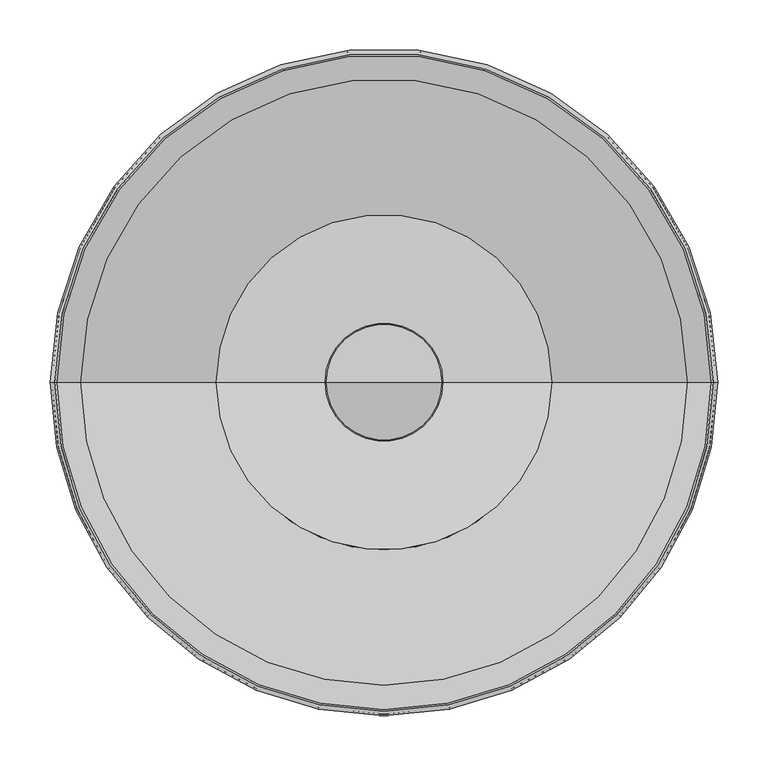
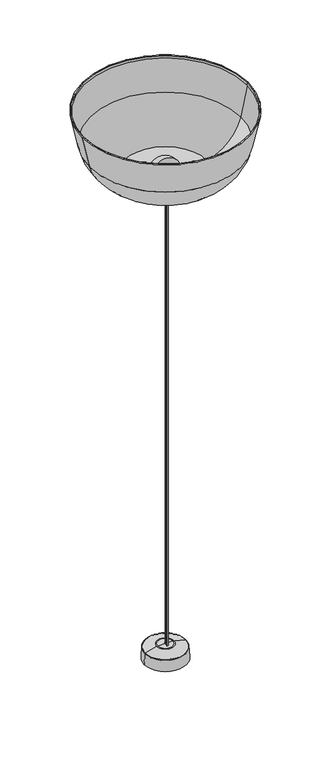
"""IFC4 building model written with IfcOpenShell, lengths in millimetres: light fixture geometry, RBW-Dram-Pendant : DR-L-PC."""

import ifcopenshell
import ifcopenshell.guid

model = None  # the IFC model being written
_history = None  # IfcOwnerHistory: only IFC2X3 demands one
_inside = {}  # id of a spatial element -> (the spatial element, [elements in it])
_under = {}  # id of a project, library or spatial element -> (it, [spatial elements below it])
_declared = {}  # id of a project -> (the project, [libraries it declares])
_typed = {}  # id of a type object -> (the type object, [elements of that type])
_made_of = {}  # id of a material, layer set ... -> (it, [elements and type objects made of it])


def new_model(schema):
    """Start an empty IFC model of exactly this schema.

    Asked for "IFC4X3", IfcOpenShell would pick the latest addendum, in which some entities
    have other attributes; the version numbers below select the first issue.
    IFC2X3 requires an IfcOwnerHistory on every rooted entity: one is made here for all.
    """
    global model, _history
    if schema == "IFC4X3":
        model = ifcopenshell.file(schema_version=(4, 3, 0, 0))
    else:
        model = ifcopenshell.file(schema=schema)
    _inside.clear()
    _under.clear()
    _declared.clear()
    _typed.clear()
    _made_of.clear()
    _history = None
    if model.schema == "IFC2X3":
        org = make("IfcOrganization", Name="unknown")
        user = make(
            "IfcPersonAndOrganization",
            ThePerson=make("IfcPerson", FamilyName="unknown"),
            TheOrganization=org,
        )
        app = make(
            "IfcApplication",
            ApplicationDeveloper=org,
            Version="unknown",
            ApplicationFullName="unknown",
            ApplicationIdentifier="unknown",
        )
        _history = make(
            "IfcOwnerHistory",
            OwningUser=user,
            OwningApplication=app,
            ChangeAction="ADDED",
            CreationDate=0,
        )
    return model


def make(cls, **values):
    """One entity of the class cls with the attributes given. An attribute that is None is left unset."""
    return model.create_entity(
        cls, **{name: value for name, value in values.items() if value is not None}
    )


def rooted(cls, **values):
    """An entity with a GlobalId (a new one), such as an element, a storey or a relation."""
    return make(cls, GlobalId=ifcopenshell.guid.new(), OwnerHistory=_history, **values)


def si_unit(unit_type, name, prefix=None):
    """IfcSIUnit, for example si_unit("LENGTHUNIT", "METRE", prefix="MILLI")."""
    return make("IfcSIUnit", UnitType=unit_type, Prefix=prefix, Name=name)


def assignment(units):
    """IfcUnitAssignment: the units of a project."""
    return None if units is None else make("IfcUnitAssignment", Units=units)


def point(xyz):
    """IfcCartesianPoint."""
    return None if xyz is None else make("IfcCartesianPoint", Coordinates=xyz)


def direction(xyz):
    """IfcDirection."""
    return None if xyz is None else make("IfcDirection", DirectionRatios=xyz)


def frame(location, z_axis=None, x_axis=None):
    """IfcAxis2Placement3D, a coordinate frame: its origin and axes. An axis left out is left unset."""
    return make(
        "IfcAxis2Placement3D",
        Location=point(location),
        Axis=direction(z_axis),
        RefDirection=direction(x_axis),
    )


def frame_2d(location, x_axis=None):
    """IfcAxis2Placement2D, a coordinate frame in the plane: its origin and x axis."""
    return make(
        "IfcAxis2Placement2D", Location=point(location), RefDirection=direction(x_axis)
    )


def origin():
    """The frame at (0, 0, 0) with its axes left unset."""
    return frame((0.0, 0.0, 0.0))


def place(relative_to, where):
    """IfcLocalPlacement: puts the frame where relative to a parent placement (None: the world)."""
    return make(
        "IfcLocalPlacement", PlacementRelTo=relative_to, RelativePlacement=where
    )


def context(
    kind, dimensions, precision=None, world=None, true_north=None, identifier=None
):
    """IfcGeometricRepresentationContext, for example the 3D "Model" context."""
    return make(
        "IfcGeometricRepresentationContext",
        ContextIdentifier=identifier,
        ContextType=kind,
        CoordinateSpaceDimension=dimensions,
        Precision=precision,
        WorldCoordinateSystem=world,
        TrueNorth=true_north,
    )


def project(units=None, contexts=None):
    """IfcProject with its units and contexts."""
    return rooted(
        "IfcProject",
        Name="project",
        RepresentationContexts=contexts,
        UnitsInContext=assignment(units),
    )


def spatial(cls, under=None, at=None, **own):
    """A site, building, storey or space (cls), placed at a placement, below another one or the project."""
    s = rooted(cls, ObjectPlacement=at, **own)
    if under is not None:
        _under.setdefault(under.id(), (under, []))[1].append(s)
    return s


def polyline(points):
    """IfcPolyline through the points."""
    return make("IfcPolyline", Points=[point(p) for p in points])


def circle_curve(where, radius):
    """IfcCircle in the frame where."""
    return make("IfcCircle", Position=where, Radius=radius)


def ellipse_curve(where, semi_axis1, semi_axis2):
    """IfcEllipse in the frame where."""
    return make(
        "IfcEllipse", Position=where, SemiAxis1=semi_axis1, SemiAxis2=semi_axis2
    )


def trimmed(basis, trim1, trim2, sense, master):
    """IfcTrimmedCurve: the piece of a basis curve between two trims."""
    return make(
        "IfcTrimmedCurve",
        BasisCurve=basis,
        Trim1=trim1,
        Trim2=trim2,
        SenseAgreement=sense,
        MasterRepresentation=master,
    )


def segment(curve, same_sense, transition):
    """IfcCompositeCurveSegment."""
    return make(
        "IfcCompositeCurveSegment",
        Transition=transition,
        SameSense=same_sense,
        ParentCurve=curve,
    )


def composite_curve(segments, self_intersect=None):
    """IfcCompositeCurve: segments joined end to end."""
    return make("IfcCompositeCurve", Segments=segments, SelfIntersect=self_intersect)


def outline(outer, holes=None, kind="AREA"):
    """IfcArbitraryClosedProfileDef: a profile drawn as a closed curve; with holes, ...WithVoids."""
    if holes is None:
        return make("IfcArbitraryClosedProfileDef", ProfileType=kind, OuterCurve=outer)
    return make(
        "IfcArbitraryProfileDefWithVoids",
        ProfileType=kind,
        OuterCurve=outer,
        InnerCurves=holes,
    )


def extrude(swept, where, along, depth):
    """IfcExtrudedAreaSolid: the profile swept, set in the frame where, extruded along a direction by depth."""
    return make(
        "IfcExtrudedAreaSolid",
        SweptArea=swept,
        Position=where,
        ExtrudedDirection=direction(along),
        Depth=depth,
    )


def shape(context_of_items, identifier, shape_type, items):
    """IfcShapeRepresentation: the items that make up one representation, for example the "Body"."""
    return make(
        "IfcShapeRepresentation",
        ContextOfItems=context_of_items,
        RepresentationIdentifier=identifier,
        RepresentationType=shape_type,
        Items=items,
    )


def source(mapping_origin, context_of_items, identifier, shape_type, items):
    """IfcRepresentationMap: a shape defined once, which mapped items show again and again."""
    return make(
        "IfcRepresentationMap",
        MappingOrigin=mapping_origin,
        MappedRepresentation=shape(context_of_items, identifier, shape_type, items),
    )


def transform(
    local_origin,
    x_axis=None,
    y_axis=None,
    z_axis=None,
    scale=None,
    scale2=None,
    scale3=None,
    uniform=True,
):
    """IfcCartesianTransformationOperator3D, or its non-uniform kind. x_axis, y_axis, z_axis: its Axis1, 2, 3."""
    if uniform:
        return make(
            "IfcCartesianTransformationOperator3D",
            Axis1=direction(x_axis),
            Axis2=direction(y_axis),
            LocalOrigin=point(local_origin),
            Scale=scale,
            Axis3=direction(z_axis),
        )
    return make(
        "IfcCartesianTransformationOperator3DnonUniform",
        Axis1=direction(x_axis),
        Axis2=direction(y_axis),
        LocalOrigin=point(local_origin),
        Scale=scale,
        Axis3=direction(z_axis),
        Scale2=scale2,
        Scale3=scale3,
    )


def mapped(mapping_source, mapping_target):
    """IfcMappedItem: shows the shape of a source again, moved by a transform."""
    return make(
        "IfcMappedItem", MappingSource=mapping_source, MappingTarget=mapping_target
    )


def made_of(thing, what):
    """Note that an element or type object is made of a material, layer set ...; save() writes the relation."""
    if what is not None:
        _made_of.setdefault(what.id(), (what, []))[1].append(thing)
    return thing


def element(
    cls,
    number,
    at=None,
    inside=None,
    cuts=None,
    type_object=None,
    material=None,
    context=None,
    identifier="Body",
    shape_type=None,
    held_by="IfcProductDefinitionShape",
    body=None,
    shapes=None,
    **own,
):
    """One element of the class cls, such as IfcWall. Its Tag is "e" and its number.

    at: its placement. inside: the storey or other place that contains it. cuts: it is an
    opening in that element (IfcRelVoidsElement). A single representation is given by context,
    identifier, shape_type and body (its items); several are given by shapes. held_by: the class
    of the entity that holds the representations. save() writes the other relations.
    """
    e = rooted(cls, Tag="e%d" % number, ObjectPlacement=at, **own)
    if body is not None:
        shapes = [shape(context, identifier, shape_type, body)]
    if shapes is not None:
        e.Representation = make(held_by, Representations=shapes)
    if inside is not None:
        _inside.setdefault(inside.id(), (inside, []))[1].append(e)
    if cuts is not None:
        rooted(
            "IfcRelVoidsElement", RelatingBuildingElement=cuts, RelatedOpeningElement=e
        )
    if type_object is not None:
        _typed.setdefault(type_object.id(), (type_object, []))[1].append(e)
    return made_of(e, material)


def aggregate(whole, parts):
    """IfcRelAggregates: a whole, such as a stair, and the parts it consists of."""
    return rooted("IfcRelAggregates", RelatingObject=whole, RelatedObjects=parts)


def save(model, path):
    """Write the relations noted so far, then the file.

    IfcRelAggregates (storeys below a building ...), IfcRelContainedInSpatialStructure (elements
    in a storey), IfcRelDefinesByType, IfcRelAssociatesMaterial and IfcRelDeclares: one each for
    every whole, place, type object, material and project.
    """
    for whole, parts in _under.values():
        aggregate(whole, parts)
    for where, things in _inside.values():
        rooted(
            "IfcRelContainedInSpatialStructure",
            RelatedElements=things,
            RelatingStructure=where,
        )
    for kind, things in _typed.values():
        rooted("IfcRelDefinesByType", RelatedObjects=things, RelatingType=kind)
    for what, things in _made_of.values():
        rooted("IfcRelAssociatesMaterial", RelatedObjects=things, RelatingMaterial=what)
    for by, libraries in _declared.values():
        rooted("IfcRelDeclares", RelatingContext=by, RelatedDefinitions=libraries)
    model.write(path)


def plane_surface(at):
    """IfcPlane: the flat surface through the origin of the frame at, square to its z axis."""
    return make("IfcPlane", Position=at)


def cylinder_surface(at, radius):
    """IfcCylindricalSurface: all points at the distance radius from the z axis of the frame at."""
    return make("IfcCylindricalSurface", Position=at, Radius=radius)


def revolved_surface(curve, axis_point, axis_direction):
    """IfcSurfaceOfRevolution: the curve turned about the line through axis_point along axis_direction."""
    return make(
        "IfcSurfaceOfRevolution",
        SweptCurve=make("IfcArbitraryOpenProfileDef", ProfileType="CURVE", Curve=curve),
        AxisPosition=make("IfcAxis1Placement", Location=point(axis_point), Axis=direction(axis_direction)),
    )


def advanced_brep(points, edges, surfaces, faces):
    """IfcAdvancedBrep: a solid bounded by faces that lie on surfaces and meet in shared edges.

    An edge is (start, end): straight between two places in points (the first is 0);
    or (start, end, curve); or (start, end, curve, False) where it runs against its curve.
    A face is (place in surfaces, loops), or (place, loops, False) where it looks against
    its surface's normal. A loop lists edges by number (the first is 1), with a minus sign
    where the edge is run from its end to its start. The first loop is the outer one.
    """
    corners = [point(p) for p in points]
    vertices = [make("IfcVertexPoint", VertexGeometry=c) for c in corners]
    made = []
    for start, end, *more in edges:
        made.append(
            make(
                "IfcEdgeCurve",
                EdgeStart=vertices[start],
                EdgeEnd=vertices[end],
                EdgeGeometry=more[0] if more else make("IfcPolyline", Points=[corners[start], corners[end]]),
                SameSense=more[1] if len(more) > 1 else True,
            )
        )
    hull = []
    for where, loops, *sense in faces:
        bounds = []
        for j, loop in enumerate(loops):
            ring = [make("IfcOrientedEdge", EdgeElement=made[abs(k) - 1], Orientation=k > 0) for k in loop]
            bounds.append(
                make(
                    "IfcFaceOuterBound" if j == 0 else "IfcFaceBound",
                    Bound=make("IfcEdgeLoop", EdgeList=ring),
                    Orientation=True,
                )
            )
        hull.append(make("IfcAdvancedFace", Bounds=bounds, FaceSurface=surfaces[where], SameSense=sense[0] if sense else True))
    return make("IfcAdvancedBrep", Outer=make("IfcClosedShell", CfsFaces=hull))


def light_fixture_f096236b(model_context):
    return source(origin(), model_context, "Body", "SolidModel", [
        advanced_brep(
        [(-45.0, 3.5438286, 1993.4185711), (45.0, 3.5438286, 1993.4185711), (0.0, 3.5438286, 1993.4185711), (-45.0, 3.5438286, 2011.9185711), (45.0, 3.5438286, 2011.9185711), (0.0, 3.5438286, 2011.9185711)],
        [
            (0, 1, circle_curve(frame((0.0, 3.5438286, 1993.4185711), z_axis=(0.0, 0.0, -1.0), x_axis=(1.0, 0.0, 0.0)), 45.0)),
            (1, 2),
            (2, 0),
            (1, 0, circle_curve(frame((0.0, 3.5438286, 1993.4185711), z_axis=(0.0, 0.0, -1.0), x_axis=(1.0, 0.0, 0.0)), 45.0)),
            (3, 4, circle_curve(frame((0.0, 3.5438286, 2011.9185711), z_axis=(0.0, 0.0, -1.0), x_axis=(1.0, 0.0, 0.0)), 45.0)),
            (4, 1),
            (0, 3),
            (4, 3, circle_curve(frame((0.0, 3.5438286, 2011.9185711), z_axis=(0.0, 0.0, -1.0), x_axis=(1.0, 0.0, 0.0)), 45.0)),
            (5, 4),
            (3, 5),
        ],
        [
            plane_surface(frame((0.0, 3.5438286, 1993.4185711), z_axis=(0.0, 0.0, -1.0), x_axis=(1.0, 0.0, 0.0))),
            cylinder_surface(frame((0.0, 3.5438286, 2032.0), z_axis=(0.0, 0.0, 1.0), x_axis=(1.0, 0.0, 0.0)), 45.0),
            plane_surface(frame((0.0, 3.5438286, 2011.9185711), z_axis=(0.0, 0.0, 1.0), x_axis=(1.0, 0.0, 0.0))),
        ],
        [
            (0, [[1, 2, 3]]),
            (0, [[4, -3, -2]]),
            (1, [[5, 6, -1, 7]]),
            (1, [[8, -7, -4, -6]]),
            (2, [[9, -5, 10]]),
            (2, [[-10, -8, -9]]),
        ],
    ),
        advanced_brep(
        [(-45.0, 3.5438286, 2011.9185711), (45.0, 3.5438286, 2011.9185711), (0.0, 3.5438286, 2011.9185711), (0.0, 3.5438286, 2105.9297358)],
        [
            (0, 1, circle_curve(frame((0.0, 3.5438286, 2011.9185711), z_axis=(0.0, 0.0, -1.0), x_axis=(1.0, 0.0, 0.0)), 45.0)),
            (1, 2),
            (2, 0),
            (1, 0, circle_curve(frame((0.0, 3.5438286, 2011.9185711), z_axis=(0.0, 0.0, -1.0), x_axis=(1.0, 0.0, 0.0)), 45.0)),
            (3, 1, circle_curve(frame((-1.2656737, 3.5438286, 2047.5483203), z_axis=(0.0, 1.0, 0.0), x_axis=(1.0, 0.0, 0.0)), 58.3951333)),
            (0, 3, circle_curve(frame((1.2656737, 3.5438286, 2047.5483203), z_axis=(0.0, 1.0, 0.0), x_axis=(-1.0, 0.0, 0.0)), 58.3951333)),
        ],
        [
            plane_surface(frame((0.0, 3.5438286, 2011.9185711), z_axis=(0.0, 0.0, -1.0), x_axis=(1.0, 0.0, 0.0))),
            revolved_surface(trimmed(ellipse_curve(frame((-1.2656737, 3.5438286, 2047.5483203), z_axis=(0.0, -1.0, 0.0), x_axis=(1.0, 0.0, 0.0)), 58.3951333, 58.3951333), [point((45.0, 3.5438286, 2011.9185711))], [point((0.0, 3.5438286, 2105.9297358))], True, "CARTESIAN"), (0.0, 3.5438286, 2129.3880931), (0.0, 0.0, 1.0)),
        ],
        [
            (0, [[1, 2, 3]]),
            (0, [[4, -3, -2]]),
            (1, [[5, -1, 6]]),
            (1, [[-6, -4, -5]]),
        ],
    ),
        advanced_brep(
        [(-324.2788351, 3.5438286, 2301.7279208), (324.2788351, 3.5438286, 2301.7279208), (325.9054912, 3.5438286, 2309.3807358), (-325.9054912, 3.5438286, 2309.3807358), (-325.7499668, 3.5438286, 2301.4152221), (325.7499668, 3.5438286, 2301.4152221), (-327.3824547, 3.5438286, 2309.0954738), (327.3824547, 3.5438286, 2309.0954738), (-328.6597266, 3.5438286, 2308.849845), (328.6597266, 3.5438286, 2308.849845), (-49.7396498, 3.5438286, 1999.0972003), (49.7396498, 3.5438286, 1999.0972003), (58.3576805, 3.5438286, 2009.3324242), (-58.3576805, 3.5438286, 2009.3324242), (-49.2428341, 3.5438286, 1993.4185711), (49.2428341, 3.5438286, 1993.4185711), (0.0, 3.5438286, 1993.4185711), (-42.7178311, 3.5438286, 1991.9185711), (42.7178311, 3.5438286, 1991.9185711), (0.0, 3.5438286, 1991.9185711), (-45.0975407, 3.5438286, 1983.037374), (45.0975407, 3.5438286, 1983.037374), (-49.9654211, 3.5438286, 1983.4632584), (49.9654211, 3.5438286, 1983.4632584), (-51.3211089, 3.5438286, 1998.9588405), (51.3211089, 3.5438286, 1998.9588405), (-58.7633459, 3.5438286, 2007.7976305), (58.7633459, 3.5438286, 2007.7976305), (330.2190915, 3.5438286, 2308.5511472), (-330.2190915, 3.5438286, 2308.5511472), (165.9241352, 3.5438286, 2038.1763258), (-165.9241352, 3.5438286, 2038.1763258), (-166.3391652, 3.5438286, 2036.6440369), (166.3391652, 3.5438286, 2036.6440369), (300.1630956, 3.5438286, 2174.7584287), (-300.1630956, 3.5438286, 2174.7584287), (-301.7027482, 3.5438286, 2174.3716135), (301.7027482, 3.5438286, 2174.3716135)],
        [
            (0, 1, circle_curve(frame((0.0, 3.5438286, 2301.7279208), z_axis=(0.0, 0.0, -1.0), x_axis=(1.0, 0.0, 0.0)), 324.2788351)),
            (1, 2),
            (2, 3, circle_curve(frame((0.0, 3.5438286, 2309.3807358), z_axis=(0.0, 0.0, 1.0), x_axis=(1.0, 0.0, 0.0)), 325.9054912)),
            (3, 0),
            (1, 0, circle_curve(frame((0.0, 3.5438286, 2301.7279208), z_axis=(0.0, 0.0, -1.0), x_axis=(1.0, 0.0, 0.0)), 324.2788351)),
            (3, 2, circle_curve(frame((0.0, 3.5438286, 2309.3807358), z_axis=(0.0, 0.0, 1.0), x_axis=(1.0, 0.0, 0.0)), 325.9054912)),
            (4, 5, circle_curve(frame((0.0, 3.5438286, 2301.4152221), z_axis=(0.0, 0.0, -1.0), x_axis=(1.0, 0.0, 0.0)), 325.7499668)),
            (5, 1),
            (0, 4),
            (5, 4, circle_curve(frame((0.0, 3.5438286, 2301.4152221), z_axis=(0.0, 0.0, -1.0), x_axis=(1.0, 0.0, 0.0)), 325.7499668)),
            (6, 7, circle_curve(frame((0.0, 3.5438286, 2309.0954738), z_axis=(0.0, 0.0, -1.0), x_axis=(1.0, 0.0, 0.0)), 327.3824547)),
            (7, 5),
            (4, 6),
            (7, 6, circle_curve(frame((0.0, 3.5438286, 2309.0954738), z_axis=(0.0, 0.0, -1.0), x_axis=(1.0, 0.0, 0.0)), 327.3824547)),
            (8, 9, circle_curve(frame((0.0, 3.5438286, 2308.849845), z_axis=(0.0, 0.0, -1.0), x_axis=(1.0, 0.0, 0.0)), 328.6597266)),
            (9, 7, circle_curve(frame((328.0187014, 3.5438286, 2308.9602354), z_axis=(0.0, -1.0, 0.0), x_axis=(1.0, 0.0, 0.0)), 0.6504609)),
            (6, 8, circle_curve(frame((-328.0187014, 3.5438286, 2308.9602354), z_axis=(0.0, -1.0, 0.0), x_axis=(-1.0, 0.0, 0.0)), 0.6504609)),
            (9, 8, circle_curve(frame((0.0, 3.5438286, 2308.849845), z_axis=(0.0, 0.0, -1.0), x_axis=(1.0, 0.0, 0.0)), 328.6597266)),
            (10, 11, circle_curve(frame((0.0, 3.5438286, 1999.0972003), z_axis=(0.0, 0.0, -1.0), x_axis=(1.0, 0.0, 0.0)), 49.7396498)),
            (11, 12, circle_curve(frame((61.3310232, 3.5438286, 1998.0830865), z_axis=(0.0, 1.0, 0.0), x_axis=(1.0, 0.0, 0.0)), 11.6356506)),
            (12, 13, circle_curve(frame((0.0, 3.5438286, 2009.3324242), z_axis=(0.0, 0.0, 1.0), x_axis=(1.0, 0.0, 0.0)), 58.3576805)),
            (13, 10, circle_curve(frame((-61.3310232, 3.5438286, 1998.0830865), z_axis=(0.0, 1.0, 0.0), x_axis=(-1.0, 0.0, 0.0)), 11.6356506)),
            (11, 10, circle_curve(frame((0.0, 3.5438286, 1999.0972003), z_axis=(0.0, 0.0, -1.0), x_axis=(1.0, 0.0, 0.0)), 49.7396498)),
            (13, 12, circle_curve(frame((0.0, 3.5438286, 2009.3324242), z_axis=(0.0, 0.0, 1.0), x_axis=(1.0, 0.0, 0.0)), 58.3576805)),
            (14, 15, circle_curve(frame((0.0, 3.5438286, 1993.4185711), z_axis=(0.0, 0.0, -1.0), x_axis=(1.0, 0.0, 0.0)), 49.2428341)),
            (15, 11),
            (10, 14),
            (15, 14, circle_curve(frame((0.0, 3.5438286, 1993.4185711), z_axis=(0.0, 0.0, -1.0), x_axis=(1.0, 0.0, 0.0)), 49.2428341)),
            (16, 15),
            (14, 16),
            (17, 18, circle_curve(frame((0.0, 3.5438286, 1991.9185711), z_axis=(0.0, 0.0, -1.0), x_axis=(1.0, 0.0, 0.0)), 42.7178311)),
            (18, 19),
            (19, 17),
            (18, 17, circle_curve(frame((0.0, 3.5438286, 1991.9185711), z_axis=(0.0, 0.0, -1.0), x_axis=(1.0, 0.0, 0.0)), 42.7178311)),
            (20, 21, circle_curve(frame((0.0, 3.5438286, 1983.037374), z_axis=(0.0, 0.0, -1.0), x_axis=(1.0, 0.0, 0.0)), 45.0975407)),
            (21, 18),
            (17, 20),
            (21, 20, circle_curve(frame((0.0, 3.5438286, 1983.037374), z_axis=(0.0, 0.0, -1.0), x_axis=(1.0, 0.0, 0.0)), 45.0975407)),
            (22, 23, circle_curve(frame((0.0, 3.5438286, 1983.4632584), z_axis=(0.0, 0.0, -1.0), x_axis=(1.0, 0.0, 0.0)), 49.9654211)),
            (23, 21, circle_curve(frame((47.4939334, 3.5438286, 1983.6794855), z_axis=(0.0, 1.0, 0.0), x_axis=(1.0, 0.0, 0.0)), 2.4809283)),
            (20, 22, circle_curve(frame((-47.4939334, 3.5438286, 1983.6794855), z_axis=(0.0, 1.0, 0.0), x_axis=(-1.0, 0.0, 0.0)), 2.4809283)),
            (23, 22, circle_curve(frame((0.0, 3.5438286, 1983.4632584), z_axis=(0.0, 0.0, -1.0), x_axis=(1.0, 0.0, 0.0)), 49.9654211)),
            (24, 25, circle_curve(frame((0.0, 3.5438286, 1998.9588405), z_axis=(0.0, 0.0, -1.0), x_axis=(1.0, 0.0, 0.0)), 51.3211089)),
            (25, 23),
            (22, 24),
            (25, 24, circle_curve(frame((0.0, 3.5438286, 1998.9588405), z_axis=(0.0, 0.0, -1.0), x_axis=(1.0, 0.0, 0.0)), 51.3211089)),
            (26, 27, circle_curve(frame((0.0, 3.5438286, 2007.7976305), z_axis=(0.0, 0.0, -1.0), x_axis=(1.0, 0.0, 0.0)), 58.7633459)),
            (27, 25, circle_curve(frame((61.3310232, 3.5438286, 1998.0830865), z_axis=(0.0, -1.0, 0.0), x_axis=(1.0, 0.0, 0.0)), 10.0481506)),
            (24, 26, circle_curve(frame((-61.3310232, 3.5438286, 1998.0830865), z_axis=(0.0, -1.0, 0.0), x_axis=(-1.0, 0.0, 0.0)), 10.0481506)),
            (27, 26, circle_curve(frame((0.0, 3.5438286, 2007.7976305), z_axis=(0.0, 0.0, -1.0), x_axis=(1.0, 0.0, 0.0)), 58.7633459)),
            (2, 28, circle_curve(frame((328.0542267, 3.5438286, 2308.924008), z_axis=(0.0, 1.0, 0.0), x_axis=(1.0, 0.0, 0.0)), 2.1967396)),
            (28, 29, circle_curve(frame((0.0, 3.5438286, 2308.5511472), z_axis=(0.0, 0.0, 1.0), x_axis=(1.0, 0.0, 0.0)), 330.2190915)),
            (29, 3, circle_curve(frame((-328.0542267, 3.5438286, 2308.924008), z_axis=(0.0, 1.0, 0.0), x_axis=(-1.0, 0.0, 0.0)), 2.1967396)),
            (29, 28, circle_curve(frame((0.0, 3.5438286, 2308.5511472), z_axis=(0.0, 0.0, 1.0), x_axis=(1.0, 0.0, 0.0)), 330.2190915)),
            (12, 30, circle_curve(frame((-3913.0104561, 3.5438286, 17034.5967993), z_axis=(0.0, -1.0, 0.0), x_axis=(1.0, 0.0, 0.0)), 15541.2462311)),
            (30, 31, circle_curve(frame((0.0, 3.5438286, 2038.1763258), z_axis=(0.0, 0.0, 1.0), x_axis=(1.0, 0.0, 0.0)), 165.9241352)),
            (31, 13, circle_curve(frame((3913.0104561, 3.5438286, 17034.5967993), z_axis=(0.0, -1.0, 0.0), x_axis=(-1.0, 0.0, 0.0)), 15541.2462311)),
            (31, 30, circle_curve(frame((0.0, 3.5438286, 2038.1763258), z_axis=(0.0, 0.0, 1.0), x_axis=(1.0, 0.0, 0.0)), 165.9241352)),
            (32, 33, circle_curve(frame((0.0, 3.5438286, 2036.6440369), z_axis=(0.0, 0.0, -1.0), x_axis=(1.0, 0.0, 0.0)), 166.3391652)),
            (33, 27, circle_curve(frame((-3913.0104755, 3.5438286, 17034.5968726), z_axis=(0.0, 1.0, 0.0), x_axis=(1.0, 0.0, 0.0)), 15542.833807)),
            (26, 32, circle_curve(frame((3913.0104755, 3.5438286, 17034.5968726), z_axis=(0.0, 1.0, 0.0), x_axis=(-1.0, 0.0, 0.0)), 15542.833807)),
            (33, 32, circle_curve(frame((0.0, 3.5438286, 2036.6440369), z_axis=(0.0, 0.0, -1.0), x_axis=(1.0, 0.0, 0.0)), 166.3391652)),
            (30, 34, circle_curve(frame((116.0824241, 3.5438286, 2221.4220338), z_axis=(0.0, -1.0, 0.0), x_axis=(1.0, 0.0, 0.0)), 189.9030954)),
            (34, 35, circle_curve(frame((0.0, 3.5438286, 2174.7584287), z_axis=(0.0, 0.0, 1.0), x_axis=(1.0, 0.0, 0.0)), 300.1630956)),
            (35, 31, circle_curve(frame((-116.0824241, 3.5438286, 2221.4220338), z_axis=(0.0, -1.0, 0.0), x_axis=(-1.0, 0.0, 0.0)), 189.9030954)),
            (35, 34, circle_curve(frame((0.0, 3.5438286, 2174.7584287), z_axis=(0.0, 0.0, 1.0), x_axis=(1.0, 0.0, 0.0)), 300.1630956)),
            (36, 37, circle_curve(frame((0.0, 3.5438286, 2174.3716135), z_axis=(0.0, 0.0, -1.0), x_axis=(1.0, 0.0, 0.0)), 301.7027482)),
            (37, 33, circle_curve(frame((116.080076, 3.5438286, 2221.4243366), z_axis=(0.0, 1.0, 0.0), x_axis=(1.0, 0.0, 0.0)), 191.4934339)),
            (32, 36, circle_curve(frame((-116.080076, 3.5438286, 2221.4243366), z_axis=(0.0, 1.0, 0.0), x_axis=(-1.0, 0.0, 0.0)), 191.4934339)),
            (37, 36, circle_curve(frame((0.0, 3.5438286, 2174.3716135), z_axis=(0.0, 0.0, -1.0), x_axis=(1.0, 0.0, 0.0)), 301.7027482)),
            (34, 9, circle_curve(frame((-1409.8286442, 3.5438286, 2608.2334839), z_axis=(0.0, -1.0, 0.0), x_axis=(1.0, 0.0, 0.0)), 1764.0783355)),
            (8, 35, circle_curve(frame((1409.8286442, 3.5438286, 2608.2334839), z_axis=(0.0, -1.0, 0.0), x_axis=(-1.0, 0.0, 0.0)), 1764.0783355)),
            (28, 37, circle_curve(frame((-1410.1224077, 3.5438286, 2608.2950888), z_axis=(0.0, 1.0, 0.0), x_axis=(1.0, 0.0, 0.0)), 1765.9657264)),
            (36, 29, circle_curve(frame((1410.1224077, 3.5438286, 2608.2950888), z_axis=(0.0, 1.0, 0.0), x_axis=(-1.0, 0.0, 0.0)), 1765.9657264)),
        ],
        [
            revolved_surface(polyline([(325.9054912, 3.5438286, 2309.3807358), (324.2788351, 3.5438286, 2301.7279208)]), (0.0, 3.5438286, 2457.45), (0.0, 0.0, 1.0)),
            revolved_surface(polyline([(324.2788351, 3.5438286, 2301.7279208), (325.7499668, 3.5438286, 2301.4152221)]), (0.0, 3.5438286, 2457.45), (0.0, 0.0, 1.0)),
            revolved_surface(polyline([(325.7499668, 3.5438286, 2301.4152221), (327.3824547, 3.5438286, 2309.0954738)]), (0.0, 3.5438286, 2457.45), (0.0, 0.0, 1.0)),
            revolved_surface(trimmed(ellipse_curve(frame((328.0187014, 3.5438286, 2308.9602354), z_axis=(0.0, 1.0, 0.0), x_axis=(1.0, 0.0, 0.0)), 0.6504609, 0.6504609), [point((327.3824547, 3.5438286, 2309.0954738))], [point((328.6597266, 3.5438286, 2308.849845))], True, "CARTESIAN"), (0.0, 3.5438286, 2457.45), (0.0, 0.0, 1.0)),
            revolved_surface(trimmed(ellipse_curve(frame((61.3310232, 3.5438286, 1998.0830865), z_axis=(0.0, -1.0, 0.0), x_axis=(1.0, 0.0, 0.0)), 11.6356506, 11.6356506), [point((58.3576805, 3.5438286, 2009.3324242))], [point((49.7396498, 3.5438286, 1999.0972003))], True, "CARTESIAN"), (0.0, 3.5438286, 2457.45), (0.0, 0.0, 1.0)),
            revolved_surface(polyline([(49.7396498, 3.5438286, 1999.0972003), (49.2428341, 3.5438286, 1993.4185711)]), (0.0, 3.5438286, 2457.45), (0.0, 0.0, 1.0)),
            plane_surface(frame((0.0, 3.5438286, 1993.4185711), z_axis=(0.0, 0.0, 1.0), x_axis=(1.0, 0.0, 0.0))),
            plane_surface(frame((0.0, 3.5438286, 1991.9185711), z_axis=(0.0, 0.0, -1.0), x_axis=(1.0, 0.0, 0.0))),
            revolved_surface(polyline([(42.7178311, 3.5438286, 1991.9185711), (45.0975407, 3.5438286, 1983.037374)]), (0.0, 3.5438286, 2457.45), (0.0, 0.0, 1.0)),
            revolved_surface(trimmed(ellipse_curve(frame((47.4939334, 3.5438286, 1983.6794855), z_axis=(0.0, -1.0, 0.0), x_axis=(1.0, 0.0, 0.0)), 2.4809283, 2.4809283), [point((45.0975407, 3.5438286, 1983.037374))], [point((49.9654211, 3.5438286, 1983.4632584))], True, "CARTESIAN"), (0.0, 3.5438286, 2457.45), (0.0, 0.0, 1.0)),
            revolved_surface(polyline([(49.9654211, 3.5438286, 1983.4632584), (51.3211089, 3.5438286, 1998.9588405)]), (0.0, 3.5438286, 2457.45), (0.0, 0.0, 1.0)),
            revolved_surface(trimmed(ellipse_curve(frame((61.3310232, 3.5438286, 1998.0830865), z_axis=(0.0, 1.0, 0.0), x_axis=(1.0, 0.0, 0.0)), 10.0481506, 10.0481506), [point((51.3211089, 3.5438286, 1998.9588405))], [point((58.7633459, 3.5438286, 2007.7976305))], True, "CARTESIAN"), (0.0, 3.5438286, 2457.45), (0.0, 0.0, 1.0)),
            revolved_surface(trimmed(ellipse_curve(frame((328.0542267, 3.5438286, 2308.924008), z_axis=(0.0, -1.0, 0.0), x_axis=(1.0, 0.0, 0.0)), 2.1967396, 2.1967396), [point((330.2190915, 3.5438286, 2308.5511472))], [point((325.9054912, 3.5438286, 2309.3807358))], True, "CARTESIAN"), (0.0, 3.5438286, 2457.45), (0.0, 0.0, 1.0)),
            revolved_surface(trimmed(ellipse_curve(frame((-3913.0104561, 3.5438286, 17034.5967993), z_axis=(0.0, 1.0, 0.0), x_axis=(1.0, 0.0, 0.0)), 15541.2462311, 15541.2462311), [point((165.9241352, 3.5438286, 2038.1763258))], [point((58.3576805, 3.5438286, 2009.3324242))], True, "CARTESIAN"), (0.0, 3.5438286, 2457.45), (0.0, 0.0, 1.0)),
            revolved_surface(trimmed(ellipse_curve(frame((-3913.0104755, 3.5438286, 17034.5968726), z_axis=(0.0, -1.0, 0.0), x_axis=(1.0, 0.0, 0.0)), 15542.833807, 15542.833807), [point((58.7633459, 3.5438286, 2007.7976305))], [point((166.3391652, 3.5438286, 2036.6440369))], True, "CARTESIAN"), (0.0, 3.5438286, 2457.45), (0.0, 0.0, 1.0)),
            revolved_surface(trimmed(ellipse_curve(frame((116.0824241, 3.5438286, 2221.4220338), z_axis=(0.0, 1.0, 0.0), x_axis=(1.0, 0.0, 0.0)), 189.9030954, 189.9030954), [point((300.1630956, 3.5438286, 2174.7584287))], [point((165.9241352, 3.5438286, 2038.1763258))], True, "CARTESIAN"), (0.0, 3.5438286, 2457.45), (0.0, 0.0, 1.0)),
            revolved_surface(trimmed(ellipse_curve(frame((116.080076, 3.5438286, 2221.4243366), z_axis=(0.0, -1.0, 0.0), x_axis=(1.0, 0.0, 0.0)), 191.4934339, 191.4934339), [point((166.3391652, 3.5438286, 2036.6440369))], [point((301.7027482, 3.5438286, 2174.3716135))], True, "CARTESIAN"), (0.0, 3.5438286, 2457.45), (0.0, 0.0, 1.0)),
            revolved_surface(trimmed(ellipse_curve(frame((-1409.8286442, 3.5438286, 2608.2334839), z_axis=(0.0, 1.0, 0.0), x_axis=(1.0, 0.0, 0.0)), 1764.0783355, 1764.0783355), [point((328.6597252, 3.5438286, 2308.8498452))], [point((300.1630956, 3.5438286, 2174.7584287))], True, "CARTESIAN"), (0.0, 3.5438286, 2457.45), (0.0, 0.0, 1.0)),
            revolved_surface(trimmed(ellipse_curve(frame((-1410.1224077, 3.5438286, 2608.2950888), z_axis=(0.0, -1.0, 0.0), x_axis=(1.0, 0.0, 0.0)), 1765.9657264, 1765.9657264), [point((301.7027482, 3.5438286, 2174.3716135))], [point((330.2182967, 3.5438286, 2308.5465619))], True, "CARTESIAN"), (0.0, 3.5438286, 2457.45), (0.0, 0.0, 1.0)),
        ],
        [
            (0, [[1, 2, 3, 4]]),
            (0, [[5, -4, 6, -2]]),
            (1, [[7, 8, -1, 9]]),
            (1, [[10, -9, -5, -8]]),
            (2, [[11, 12, -7, 13]]),
            (2, [[14, -13, -10, -12]]),
            (3, [[15, 16, -11, 17]]),
            (3, [[18, -17, -14, -16]]),
            (4, [[19, 20, 21, 22]]),
            (4, [[23, -22, 24, -20]]),
            (5, [[25, 26, -19, 27]]),
            (5, [[28, -27, -23, -26]]),
            (6, [[29, -25, 30]]),
            (6, [[-30, -28, -29]]),
            (7, [[31, 32, 33]]),
            (7, [[34, -33, -32]]),
            (8, [[35, 36, -31, 37]]),
            (8, [[38, -37, -34, -36]]),
            (9, [[39, 40, -35, 41]]),
            (9, [[42, -41, -38, -40]]),
            (10, [[43, 44, -39, 45]]),
            (10, [[46, -45, -42, -44]]),
            (11, [[47, 48, -43, 49]]),
            (11, [[50, -49, -46, -48]]),
            (12, [[-3, 51, 52, 53]]),
            (12, [[-6, -53, 54, -51]]),
            (13, [[-21, 55, 56, 57]]),
            (13, [[-24, -57, 58, -55]]),
            (14, [[59, 60, -47, 61]]),
            (14, [[62, -61, -50, -60]]),
            (15, [[-56, 63, 64, 65]]),
            (15, [[-58, -65, 66, -63]]),
            (16, [[67, 68, -59, 69]]),
            (16, [[70, -69, -62, -68]]),
            (17, [[-64, 71, -15, 72]]),
            (17, [[-66, -72, -18, -71]]),
            (18, [[-52, 73, -67, 74]]),
            (18, [[-54, -74, -70, -73]]),
        ],
    ),
        advanced_brep(
        [(-1.9558002, 3.5438286, 60.1756874), (1.9558002, 3.5438286, 60.1756874), (0.0, 3.5438286, 60.1756874), (-1.9558002, 3.5438286, 63.6557075), (1.9558002, 3.5438286, 63.6557075), (0.0, 3.5438286, 63.6557075)],
        [
            (0, 1, circle_curve(frame((0.0, 3.5438286, 60.1756874), z_axis=(0.0, 0.0, -1.0), x_axis=(1.0, 0.0, 0.0)), 1.9558002)),
            (1, 2),
            (2, 0),
            (1, 0, circle_curve(frame((0.0, 3.5438286, 60.1756874), z_axis=(0.0, 0.0, -1.0), x_axis=(1.0, 0.0, 0.0)), 1.9558002)),
            (3, 4, circle_curve(frame((0.0, 3.5438286, 63.6557075), z_axis=(0.0, 0.0, -1.0), x_axis=(1.0, 0.0, 0.0)), 1.9558002)),
            (4, 1),
            (0, 3),
            (4, 3, circle_curve(frame((0.0, 3.5438286, 63.6557075), z_axis=(0.0, 0.0, -1.0), x_axis=(1.0, 0.0, 0.0)), 1.9558002)),
            (5, 4),
            (3, 5),
        ],
        [
            plane_surface(frame((0.0, 3.5438286, 60.1756874), z_axis=(0.0, 0.0, -1.0), x_axis=(1.0, 0.0, 0.0))),
            cylinder_surface(frame((0.0, 3.5438286, 54.1910677), z_axis=(0.0, 0.0, 1.0), x_axis=(1.0, 0.0, 0.0)), 1.9558002),
            plane_surface(frame((0.0, 3.5438286, 63.6557075), z_axis=(0.0, 0.0, 1.0), x_axis=(1.0, 0.0, 0.0))),
        ],
        [
            (0, [[1, 2, 3]]),
            (0, [[4, -3, -2]]),
            (1, [[5, 6, -1, 7]]),
            (1, [[8, -7, -4, -6]]),
            (2, [[9, -5, 10]]),
            (2, [[-10, -8, -9]]),
        ],
    ),
        advanced_brep(
        [(-35.5973952, 3.5438286, 59.3750688), (35.5973952, 3.5438286, 59.3750688), (80.1396011, 3.5438286, 47.9188132), (-80.1396011, 3.5438286, 47.9188132), (0.0, 3.5438286, 60.1756874), (29.2704342, 3.5438286, 60.1756874), (-29.2704342, 3.5438286, 60.1756874), (-84.0611662, 3.5438286, 0.0), (84.0611662, 3.5438286, 0.0), (0.0, 3.5438286, 0.0), (-81.8320169, 3.5438286, 45.842229), (81.8320169, 3.5438286, 45.842229)],
        [
            (0, 1, circle_curve(frame((0.0, 3.5438286, 59.3750688), z_axis=(0.0, 0.0, -1.0), x_axis=(1.0, 0.0, 0.0)), 35.5973952)),
            (1, 2),
            (2, 3, circle_curve(frame((0.0, 3.5438286, 47.9188132), z_axis=(0.0, 0.0, 1.0), x_axis=(1.0, 0.0, 0.0)), 80.1396011)),
            (3, 0),
            (1, 0, circle_curve(frame((0.0, 3.5438286, 59.3750688), z_axis=(0.0, 0.0, -1.0), x_axis=(1.0, 0.0, 0.0)), 35.5973952)),
            (3, 2, circle_curve(frame((0.0, 3.5438286, 47.9188132), z_axis=(0.0, 0.0, 1.0), x_axis=(1.0, 0.0, 0.0)), 80.1396011)),
            (4, 5),
            (5, 6, circle_curve(frame((0.0, 3.5438286, 60.1756874), z_axis=(0.0, 0.0, 1.0), x_axis=(1.0, 0.0, 0.0)), 29.2704342)),
            (6, 4),
            (6, 5, circle_curve(frame((0.0, 3.5438286, 60.1756874), z_axis=(0.0, 0.0, 1.0), x_axis=(1.0, 0.0, 0.0)), 29.2704342)),
            (7, 8, circle_curve(frame((0.0, 3.5438286, 0.0), z_axis=(0.0, 0.0, -1.0), x_axis=(1.0, 0.0, 0.0)), 84.0611662)),
            (8, 9),
            (9, 7),
            (8, 7, circle_curve(frame((0.0, 3.5438286, 0.0), z_axis=(0.0, 0.0, -1.0), x_axis=(1.0, 0.0, 0.0)), 84.0611662)),
            (10, 11, circle_curve(frame((0.0, 3.5438286, 45.842229), z_axis=(0.0, 0.0, -1.0), x_axis=(1.0, 0.0, 0.0)), 81.8320169)),
            (11, 8),
            (7, 10),
            (11, 10, circle_curve(frame((0.0, 3.5438286, 45.842229), z_axis=(0.0, 0.0, -1.0), x_axis=(1.0, 0.0, 0.0)), 81.8320169)),
            (2, 11, circle_curve(frame((79.5773045, 3.5438286, 45.7325901), z_axis=(0.0, 1.0, 0.0), x_axis=(1.0, 0.0, 0.0)), 2.2573765)),
            (10, 3, circle_curve(frame((-79.5773045, 3.5438286, 45.7325901), z_axis=(0.0, 1.0, 0.0), x_axis=(-1.0, 0.0, 0.0)), 2.2573765)),
            (5, 1, circle_curve(frame((29.2704342, 3.5438286, 34.7756874), z_axis=(0.0, 1.0, 0.0), x_axis=(1.0, 0.0, 0.0)), 25.4)),
            (0, 6, circle_curve(frame((-29.2704342, 3.5438286, 34.7756874), z_axis=(0.0, 1.0, 0.0), x_axis=(-1.0, 0.0, 0.0)), 25.4)),
        ],
        [
            revolved_surface(polyline([(80.1396011, 3.5438286, 47.9188132), (35.5973952, 3.5438286, 59.3750688)]), (0.0, 3.5438286, -69.85), (0.0, 0.0, 1.0)),
            plane_surface(frame((0.0, 3.5438286, 60.1756874), z_axis=(0.0, 0.0, 1.0), x_axis=(1.0, 0.0, 0.0))),
            plane_surface(frame((0.0, 3.5438286, 0.0), z_axis=(0.0, 0.0, -1.0), x_axis=(1.0, 0.0, 0.0))),
            revolved_surface(polyline([(84.0611662, 3.5438286, 0.0), (81.8320169, 3.5438286, 45.842229)]), (0.0, 3.5438286, -69.85), (0.0, 0.0, 1.0)),
            revolved_surface(trimmed(ellipse_curve(frame((79.5773045, 3.5438286, 45.7325901), z_axis=(0.0, -1.0, 0.0), x_axis=(1.0, 0.0, 0.0)), 2.2573765, 2.2573765), [point((81.8320169, 3.5438286, 45.842229))], [point((80.1396011, 3.5438286, 47.9188132))], True, "CARTESIAN"), (0.0, 3.5438286, -69.85), (0.0, 0.0, 1.0)),
            revolved_surface(trimmed(ellipse_curve(frame((29.2704342, 3.5438286, 34.7756874), z_axis=(0.0, -1.0, 0.0), x_axis=(1.0, 0.0, 0.0)), 25.4, 25.4), [point((35.5973952, 3.5438286, 59.3750688))], [point((29.2704342, 3.5438286, 60.1756874))], True, "CARTESIAN"), (0.0, 3.5438286, -69.85), (0.0, 0.0, 1.0)),
        ],
        [
            (0, [[1, 2, 3, 4]]),
            (0, [[5, -4, 6, -2]]),
            (1, [[7, 8, 9]]),
            (1, [[-9, 10, -7]]),
            (2, [[11, 12, 13]]),
            (2, [[14, -13, -12]]),
            (3, [[15, 16, -11, 17]]),
            (3, [[18, -17, -14, -16]]),
            (4, [[-3, 19, -15, 20]]),
            (4, [[-6, -20, -18, -19]]),
            (5, [[-8, 21, -1, 22]]),
            (5, [[-10, -22, -5, -21]]),
        ],
    ),
        extrude(outline(composite_curve([segment(trimmed(circle_curve(frame_2d((0.0, -10.4593129)), 3.1077965), [point((-3.1077965, -10.4593129))], [point((3.1077965, -10.4593129))], False, "CARTESIAN"), True, "CONTINUOUS"), segment(trimmed(circle_curve(frame_2d((0.0, -10.4593129)), 3.1077965), [point((3.1077965, -10.4593129))], [point((-3.1077965, -10.4593129))], False, "CARTESIAN"), True, "CONTINUOUS")], self_intersect=False)), frame((0.0, 0.0, 60.1756874), z_axis=(0.0, 0.0, 1.0), x_axis=(1.0, 0.0, 0.0)), (0.0, 0.0, 1.0), 1931.7428837),
        extrude(outline(composite_curve([segment(trimmed(circle_curve(frame_2d((0.0, 3.5438286)), 0.782962), [point((-0.782962, 3.5438286))], [point((0.782962, 3.5438286))], False, "CARTESIAN"), True, "CONTINUOUS"), segment(trimmed(circle_curve(frame_2d((0.0, 3.5438286)), 0.782962), [point((0.782962, 3.5438286))], [point((-0.782962, 3.5438286))], False, "CARTESIAN"), True, "CONTINUOUS")], self_intersect=False)), frame((0.0, 0.0, 63.6557075), z_axis=(0.0, 0.0, 1.0), x_axis=(1.0, 0.0, 0.0)), (0.0, 0.0, 1.0), 1928.2628635),
    ])


if __name__ == "__main__":
    model = new_model("IFC4")
    model_context = context("Model", 3, world=origin())
    ifc_project = project(units=[si_unit("LENGTHUNIT", "METRE", prefix="MILLI")], contexts=[model_context])
    site = spatial("IfcSite", under=ifc_project)
    building = spatial("IfcBuilding", under=site)
    placement = place(None, origin())
    light_fixture_shape = light_fixture_f096236b(model_context)
    element("IfcLightFixture", 1, ObjectType="RBW-Dram-Pendant : DR-L-PC", at=placement, inside=building, context=model_context, shape_type="MappedRepresentation", body=[
        mapped(light_fixture_shape, transform((0.0, 0.0, 0.0), x_axis=(1.0, 0.0, 0.0), y_axis=(0.0, 1.0, 0.0), z_axis=(0.0, 0.0, 1.0))),
    ])
    save(model, "model.ifc")
